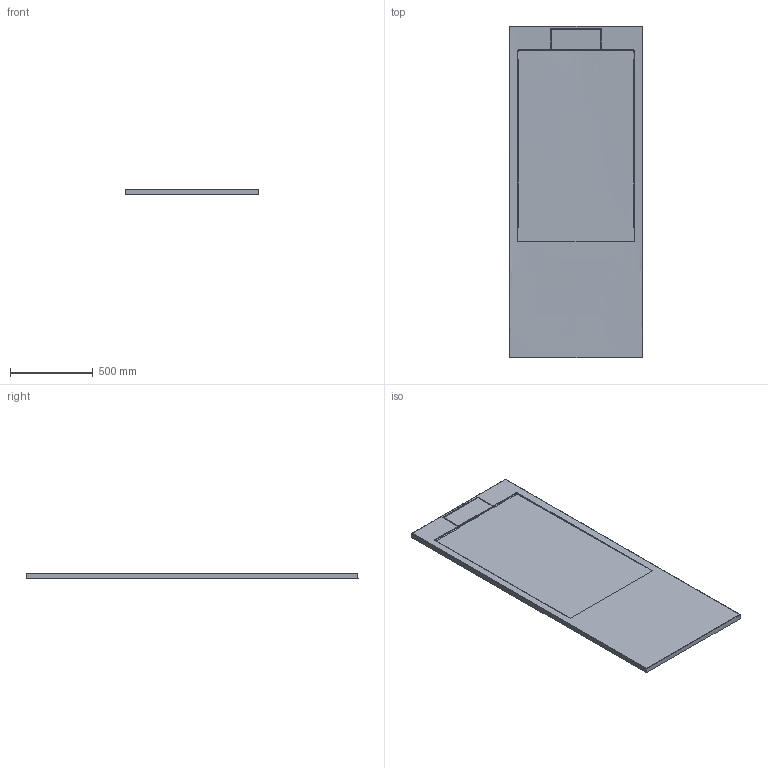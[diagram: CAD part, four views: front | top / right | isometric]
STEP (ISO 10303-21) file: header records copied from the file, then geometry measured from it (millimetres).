
FILE_DESCRIPTION (( 'STEP AP214' ), '1' );
FILE_NAME ('CORAL 200x80 A.STEP', '2024-05-13T10:00:53', ( '' ), ( '' ), 'SwSTEP 2.0', 'SolidWorks 2021', '' );
FILE_SCHEMA (( 'AUTOMOTIVE_DESIGN' ));
Length unit declared in the file: millimetre
Products named in the file (1): CORAL 200x80 A
Bounding box: 801.57 x 2001.05 x 30 mm (x, y, z)
Volume: 40486057.2 mm3; surface area: 3470839 mm2
Topology: 2 solids, 2 shells, 135 faces, 317 edges, 176 vertices
Faces by surface type: bspline 76, cylinder 31, plane 28
Full cylindrical faces by diameter (mm): 90 x1
Entity records: 18755 total; most frequent: CARTESIAN_POINT 16431, ORIENTED_EDGE 606, EDGE_CURVE 303, B_SPLINE_CURVE_WITH_KNOTS 215, DIRECTION 204, VERTEX_POINT 176, EDGE_LOOP 141, FACE_OUTER_BOUND 138
